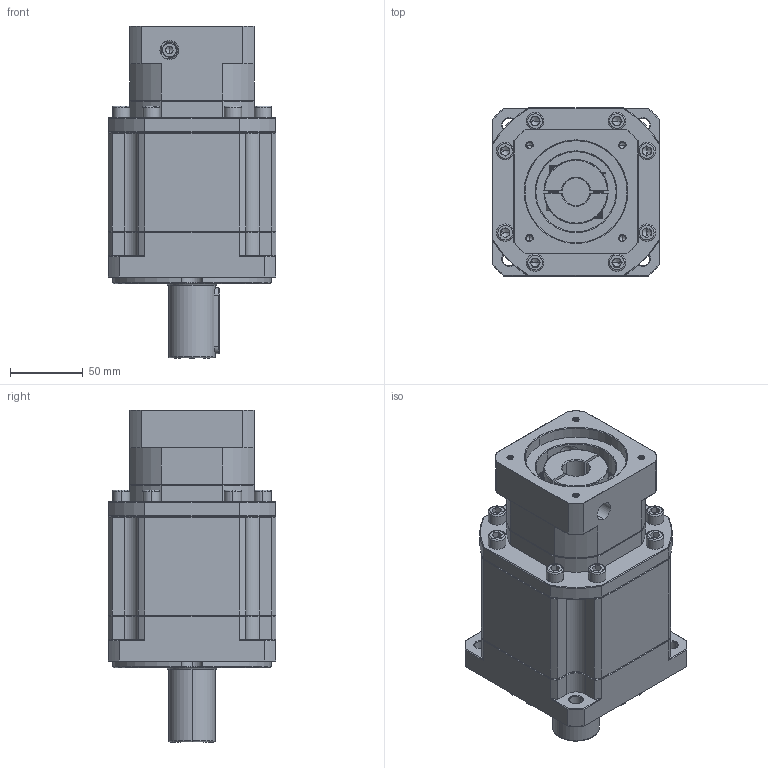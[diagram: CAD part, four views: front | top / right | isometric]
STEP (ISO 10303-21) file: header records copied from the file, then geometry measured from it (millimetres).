
FILE_DESCRIPTION (( 'STEP AP214' ), '1' );
FILE_NAME ('ZB115A-D32-L3-P2-19-70-90-M5.step', '2023-08-26T10:03:11', ( '' ), ( '' ), 'SwSTEP 2.0', 'SolidWorks 2016', '' );
FILE_SCHEMA (( 'AUTOMOTIVE_DESIGN' ));
Length unit declared in the file: millimetre
Products named in the file (1): ZB115A-D32-L3-P2-19-70-90-M5
Bounding box: 115 x 115 x 227.5 mm (x, y, z)
Volume: 1706813.3 mm3; surface area: 144619.9 mm2
Topology: 5 solids, 5 shells, 2382 faces, 6286 edges, 4003 vertices
Faces by surface type: plane 1180, bspline 442, cylinder 419, cone 341
Entity records: 127811 total; most frequent: CARTESIAN_POINT 46422, ORIENTED_EDGE 12496, DIRECTION 9788, EDGE_CURVE 6248, LINE 4022, VECTOR 4022, VERTEX_POINT 4003, AXIS2_PLACEMENT_3D 2883
